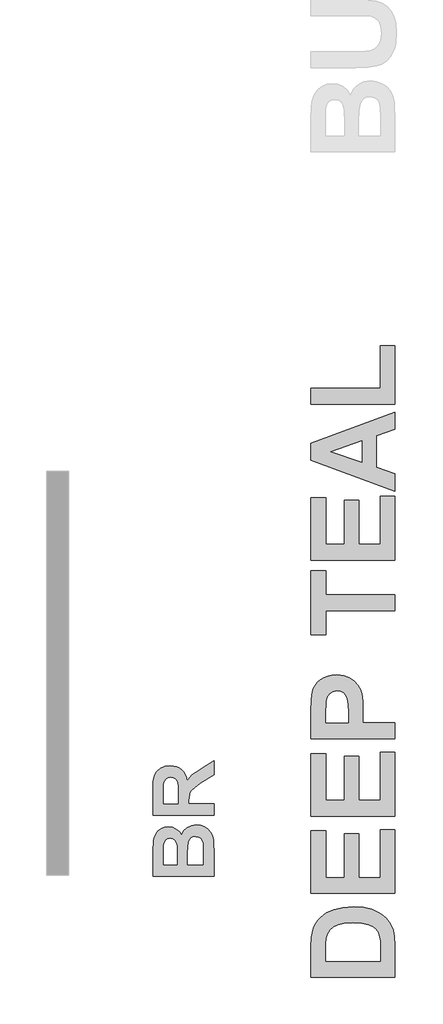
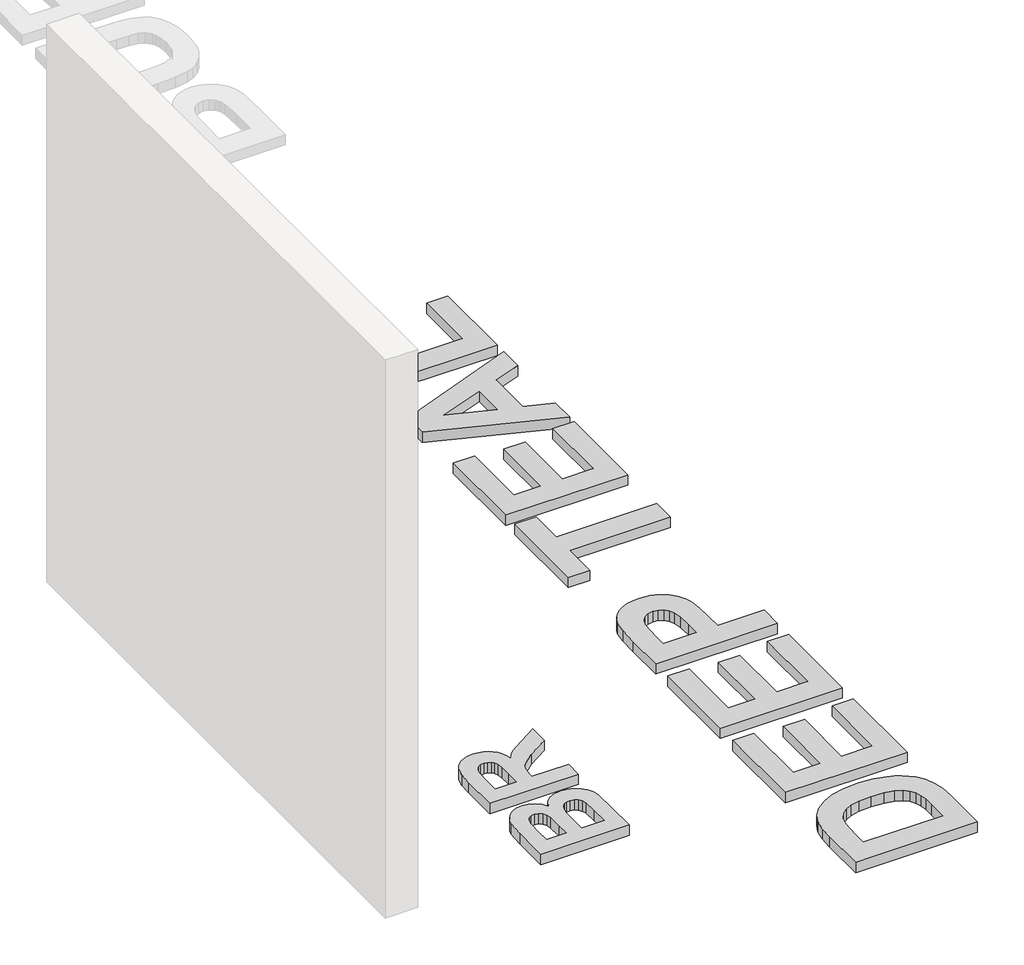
# One storey, part 4 of 10: 2 proxies.
"""IFC4 building model written with IfcOpenShell, lengths in millimetres."""

from ifc_helpers import new_model, si_unit, origin, origin_with_axes, place, context, project, spatial, polyline, outline, extrude, element, save

model = new_model("IFC4")

# Units and contexts
model_context = context("Model", 3, world=origin())
ifc_project = project(units=[si_unit("LENGTHUNIT", "METRE", prefix="MILLI")], contexts=[model_context])

# Site, building, storey
site = spatial("IfcSite", under=ifc_project)
building = spatial("IfcBuilding", under=site)
storey = spatial("IfcBuildingStorey", under=building, Name="PORTOBELLO - SHOWROOM", Elevation=0.0)

# Proxies
placement = place(None, origin())
element("IfcBuildingElementProxy", 1, Name="400mm Arial", ObjectType="400mm Arial", at=placement, inside=storey, context=model_context, shape_type="SweptSolid", body=[
    extrude(outline(polyline([(-6554.2616634, -2032.2404556), (-6554.2616634, -1864.7276275), (-6550.213015, -1790.5867535), (-6543.9502619, -1767.4335454), (-6533.2592997, -1746.8613506), (-6518.2286925, -1729.1864699), (-6498.9470044, -1714.7252039), (-6476.2366172, -1705.0843598), (-6450.9199126, -1701.8707452), (-6423.3384953, -1705.7043091), (-6398.0850509, -1717.205001), (-6377.0067751, -1735.2847466), (-6361.9508638, -1758.8554716), (-6347.3251214, -1729.0472976), (-6325.1081632, -1707.0327719), (-6296.7929284, -1693.4444956), (-6263.872356, -1688.9150702), (-6236.5313272, -1692.166641), (-6209.974724, -1701.9213533), (-6186.4419551, -1717.3062172), (-6168.1724291, -1737.4482431), (-6155.5330549, -1762.5878193), (-6148.8907411, -1792.9653344), (-6146.1579034, -1892.7645178), (-6146.1579034, -2032.2404556), (-6554.2616634, -2032.2404556)]), holes=[polyline([(-6483.0054513, -1954.5064061), (-6392.3157269, -1954.5064061), (-6392.3157269, -1895.1937068), (-6393.6315376, -1829.4031701), (-6398.3633954, -1808.6918031), (-6407.7005908, -1792.9147263), (-6421.1876509, -1782.9322776), (-6438.3691026, -1779.6047947), (-6454.8040847, -1782.4768046), (-6467.8736279, -1791.0928345), (-6477.0210429, -1805.3516682), (-6481.6896406, -1825.1520893), (-6483.0054513, -1902.481274), (-6483.0054513, -1954.5064061)]), polyline([(-6321.0595148, -1954.5064061), (-6217.4141154, -1954.5064061), (-6217.4141154, -1872.3188433), (-6219.8433045, -1811.3866847), (-6225.2710238, -1793.3955033), (-6235.2787766, -1779.0987136), (-6249.6641305, -1769.7615182), (-6268.224653, -1766.6491198), (-6284.3180305, -1769.0530047), (-6297.7797864, -1776.2646597), (-6308.2809683, -1788.0057401), (-6315.4926232, -1803.9979014), (-6319.6677919, -1832.7433051), (-6321.0595148, -1882.744113), (-6321.0595148, -1954.5064061)])]), origin_with_axes(), (0.0, 0.0, 1.0), 50.0),
    extrude(outline(polyline([(-6146.1579034, -1624.1366956), (-6554.2616634, -1624.1366956), (-6554.2616634, -1452.4740029), (-6551.5035216, -1396.5520467), (-6543.2290964, -1358.3429273), (-6527.8948406, -1331.9254965), (-6503.9572068, -1311.3786058), (-6473.6682559, -1298.1698903), (-6439.2800485, -1293.7669852), (-6417.2085886, -1295.3579775), (-6397.1488009, -1300.1309544), (-6379.1006854, -1308.0859159), (-6363.0642421, -1319.2228621), (-6349.4253577, -1333.5291408), (-6338.5699192, -1350.9921001), (-6330.4979264, -1371.6117399), (-6325.2093794, -1395.3880603), (-6308.9641777, -1372.8421495), (-6291.2007328, -1354.5979276), (-6265.4665113, -1335.7211043), (-6225.3089798, -1311.2773896), (-6146.1579034, -1261.3777979), (-6146.1579034, -1352.1687385), (-6239.3780331, -1411.2790053), (-6294.692692, -1457.6866378), (-6304.29558, -1470.5664005), (-6310.3305965, -1484.2052849), (-6314.5816773, -1528.5885931), (-6314.5816773, -1546.4026461), (-6146.1579034, -1546.4026461), (-6146.1579034, -1624.1366956)]), holes=[polyline([(-6385.8378894, -1546.4026461), (-6385.8378894, -1482.332785), (-6387.0145279, -1431.7626359), (-6390.5444432, -1404.5481274), (-6396.9463685, -1390.7068106), (-6406.7390368, -1380.2562369), (-6419.6567557, -1373.6898352), (-6435.4338325, -1371.5010347), (-6452.9062808, -1374.3856967), (-6466.6590333, -1383.0396827), (-6476.3631375, -1396.9569116), (-6481.6896406, -1415.6313024), (-6483.0054513, -1478.7902176), (-6483.0054513, -1546.4026461), (-6385.8378894, -1546.4026461)])]), origin_with_axes(), (0.0, 0.0, 1.0), 50.0),
])
element("IfcBuildingElementProxy", 2, Name="550mm Arial", ObjectType="550mm Arial", at=placement, inside=storey, context=model_context, shape_type="SweptSolid", body=[
    extrude(outline(polyline([(-5495.758546, -2708.4086172), (-5495.758546, -2500.6243895), (-5493.0794795, -2438.6927208), (-5485.0422798, -2393.4617268), (-5476.3309643, -2369.5762827), (-5464.8101082, -2347.4652852), (-5450.4797116, -2327.1287345), (-5433.3397743, -2308.5666304), (-5392.0751906, -2277.4442272), (-5342.4602695, -2254.7765406), (-5282.3900302, -2240.9462944), (-5209.7594918, -2236.3362123), (-5145.3227219, -2240.6505533), (-5090.3496676, -2253.5935762), (-5061.1930731, -2265.301445), (-5034.9590965, -2279.2708635), (-5011.6477381, -2295.5018318), (-4991.2589977, -2313.9943497), (-4965.7208827, -2348.7178358), (-4946.4455206, -2393.8792437), (-4937.5732872, -2437.822894), (-4934.615876, -2494.5008088), (-4934.615876, -2708.4086172), (-5495.758546, -2708.4086172)]), holes=[polyline([(-5397.7812544, -2601.5242991), (-5032.5931676, -2601.5242991), (-5032.5931676, -2510.505622), (-5033.9153044, -2466.5271786), (-5037.8817146, -2436.7443087), (-5046.94531, -2409.6231089), (-5060.7755562, -2387.5469045), (-5082.1906922, -2369.7850411), (-5114.0089568, -2355.6068641), (-5157.7786418, -2346.3171138), (-5215.0480387, -2343.2205304), (-5271.5171951, -2346.3171138), (-5313.1645026, -2355.6068641), (-5343.643234, -2370.4461095), (-5366.6066617, -2390.191178), (-5382.6810611, -2415.3987589), (-5392.4927075, -2446.6255413), (-5396.4591177, -2484.4456109), (-5397.7812544, -2546.6904172), (-5397.7812544, -2601.5242991)])]), origin_with_axes(), (0.0, 0.0, 1.0), 50.0),
    extrude(outline(polyline([(-4934.615876, -2147.2659472), (-5495.758546, -2147.2659472), (-5495.758546, -1728.6357014), (-5397.7812544, -1728.6357014), (-5397.7812544, -2040.3816292), (-5273.0828833, -2040.3816292), (-5273.0828833, -1746.4497544), (-5175.1055918, -1746.4497544), (-5175.1055918, -2040.3816292), (-5032.5931676, -2040.3816292), (-5032.5931676, -1719.7286749), (-4934.615876, -1719.7286749), (-4934.615876, -2147.2659472)])), origin_with_axes(), (0.0, 0.0, 1.0), 50.0),
    extrude(outline(polyline([(-4934.615876, -1630.6584098), (-5495.758546, -1630.6584098), (-5495.758546, -1212.028164), (-5397.7812544, -1212.028164), (-5397.7812544, -1523.7740917), (-5273.0828833, -1523.7740917), (-5273.0828833, -1229.842217), (-5175.1055918, -1229.842217), (-5175.1055918, -1523.7740917), (-5032.5931676, -1523.7740917), (-5032.5931676, -1203.1211374), (-4934.615876, -1203.1211374), (-4934.615876, -1630.6584098)])), origin_with_axes(), (0.0, 0.0, 1.0), 50.0),
    extrude(outline(polyline([(-4934.615876, -1114.0508724), (-5495.758546, -1114.0508724), (-5495.758546, -933.2660687), (-5493.6709617, -848.3361792), (-5487.4082087, -799.2431542), (-5479.2970737, -776.2144895), (-5467.4891748, -755.1429351), (-5451.9845119, -736.028491), (-5432.7830852, -718.8711572), (-5410.2067304, -704.7147259), (-5384.5772835, -694.6029893), (-5355.8947445, -688.5359473), (-5324.1591135, -686.5136), (-5276.8927248, -691.2628544), (-5237.802708, -705.5106175), (-5206.5585291, -727.0823223), (-5182.8296538, -753.8034018), (-5166.2159618, -783.3253237), (-5156.3173327, -813.2995554), (-5150.3677174, -863.5755449), (-5148.3845122, -932.2918627), (-5148.3845122, -1007.1665543), (-4934.615876, -1007.1665543), (-4934.615876, -1114.0508724)]), holes=[polyline([(-5397.7812544, -1007.1665543), (-5246.3618038, -1007.1665543), (-5246.3618038, -940.7813723), (-5248.4493882, -880.9894776), (-5254.7121412, -844.9612512), (-5265.445804, -823.4243395), (-5280.9461177, -807.1063886), (-5300.2736693, -796.8250357), (-5322.489046, -793.3979181), (-5349.0361602, -798.2167586), (-5370.5034858, -812.6732801), (-5385.8820237, -834.4711399), (-5394.1627749, -861.3139952), (-5397.7812544, -948.5750205), (-5397.7812544, -1007.1665543)])]), origin_with_axes(), (0.0, 0.0, 1.0), 50.0),
    extrude(outline(polyline([(-4934.615876, -258.9763276), (-5397.7812544, -258.9763276), (-5397.7812544, -419.3028048), (-5495.758546, -419.3028048), (-5495.758546, 8.2344676), (-5397.7812544, 8.2344676), (-5397.7812544, -152.0920096), (-4934.615876, -152.0920096), (-4934.615876, -258.9763276)])), origin_with_axes(), (0.0, 0.0, 1.0), 50.0),
    extrude(outline(polyline([(-4934.615876, 79.4906796), (-5495.758546, 79.4906796), (-5495.758546, 498.1209255), (-5397.7812544, 498.1209255), (-5397.7812544, 186.3749977), (-5273.0828833, 186.3749977), (-5273.0828833, 480.3068725), (-5175.1055918, 480.3068725), (-5175.1055918, 186.3749977), (-5032.5931676, 186.3749977), (-5032.5931676, 507.027952), (-4934.615876, 507.027952), (-4934.615876, 79.4906796)])), origin_with_axes(), (0.0, 0.0, 1.0), 50.0),
    extrude(outline(polyline([(-4934.615876, 1068.170622), (-4934.615876, 955.8585846), (-5059.3142472, 911.8801412), (-5059.3142472, 700.0599171), (-4934.615876, 656.6381629), (-4934.615876, 542.656058), (-5495.758546, 747.2393231), (-5495.758546, 861.3606003), (-4934.615876, 1068.170622)]), holes=[polyline([(-5157.2915387, 877.6437581), (-5362.1531484, 805.41334), (-5157.2915387, 734.157128), (-5157.2915387, 877.6437581)])]), origin_with_axes(), (0.0, 0.0, 1.0), 50.0),
    extrude(outline(polyline([(-4934.615876, 1121.612781), (-5495.758546, 1121.612781), (-5495.758546, 1228.4970991), (-5032.5931676, 1228.4970991), (-5032.5931676, 1513.5219474), (-4934.615876, 1513.5219474), (-4934.615876, 1121.612781)])), origin_with_axes(), (0.0, 0.0, 1.0), 50.0),
])

save(model, "model.ifc")
